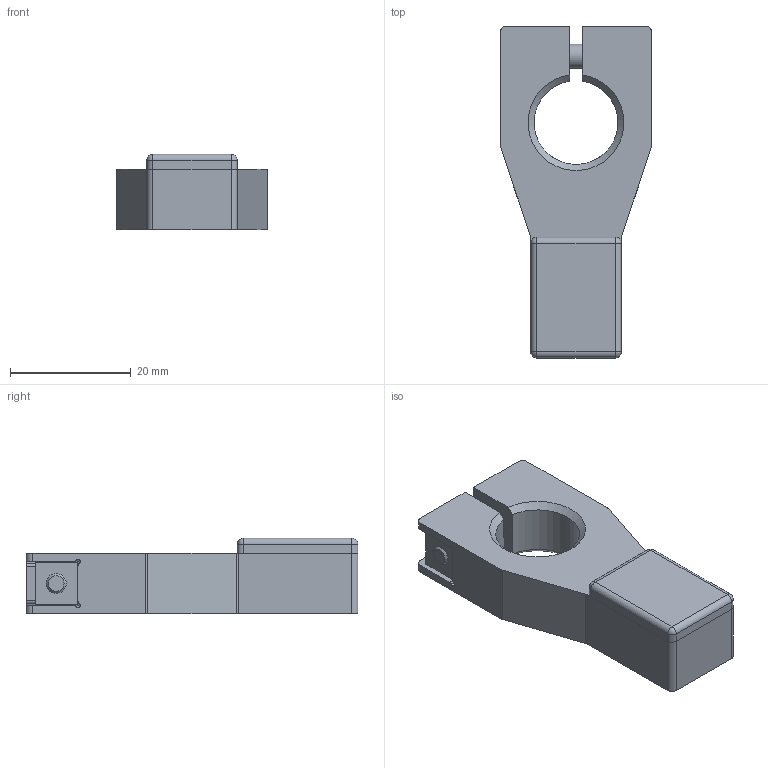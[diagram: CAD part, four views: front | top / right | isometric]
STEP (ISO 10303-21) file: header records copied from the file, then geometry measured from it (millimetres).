
FILE_DESCRIPTION (( 'STEP AP214' ), '1' );
FILE_NAME ('2982.STEP', '2024-10-04T19:42:29', ( '' ), ( '' ), 'SwSTEP 2.0', 'SolidWorks 2022', '' );
FILE_SCHEMA (( 'AUTOMOTIVE_DESIGN' ));
Length unit declared in the file: millimetre
Products named in the file (1): 2982
Bounding box: 25 x 55 x 12.5 mm (x, y, z)
Volume: 9034.6 mm3; surface area: 6700 mm2
Topology: 5 solids, 5 shells, 260 faces, 623 edges, 404 vertices
Faces by surface type: bspline 90, cylinder 80, plane 67, cone 15, torus 4, sphere 4
Full cylindrical faces by diameter (mm): 3.1 x8, 3.3 x5, 3.9 x4, 4 x1, 4.3 x1, 4.5 x6, 7 x2, 8 x1
Entity records: 18856 total; most frequent: CARTESIAN_POINT 13694, ORIENTED_EDGE 1134, DIRECTION 741, EDGE_CURVE 567, VERTEX_POINT 397, EDGE_LOOP 356, AXIS2_PLACEMENT_3D 302, FACE_OUTER_BOUND 292
